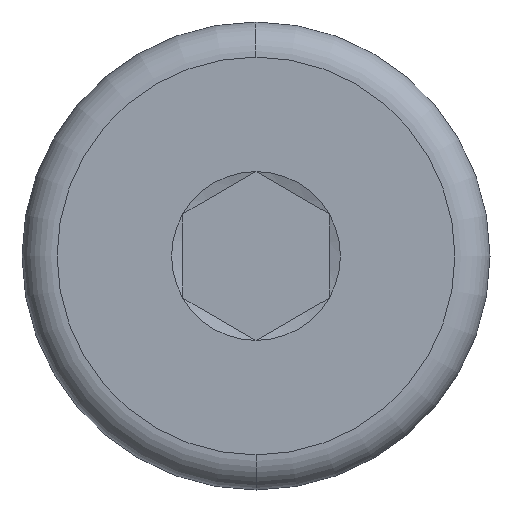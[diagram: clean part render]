
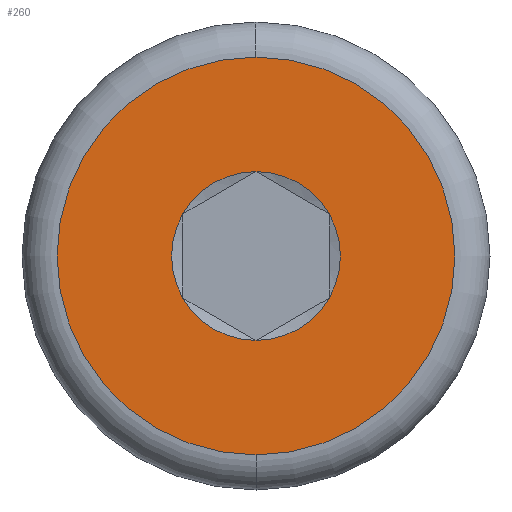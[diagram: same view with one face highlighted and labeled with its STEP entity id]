
A CAD part, left-side view. The second image highlights one B-rep face of the part: STEP entity #260.
In plain terms, the highlighted planar face has unit normal (-1, 0, 0).
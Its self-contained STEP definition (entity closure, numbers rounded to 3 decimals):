
#1 = ORIENTED_EDGE ( 'NONE', *, *, #178, .T. ) ;
#3 = ORIENTED_EDGE ( 'NONE', *, *, #229, .T. ) ;
#16 = AXIS2_PLACEMENT_3D ( 'NONE', #173, #369, #273 ) ;
#43 = CARTESIAN_POINT ( 'NONE',  ( 0., 1.25, 0.722 ) ) ;
#46 = ORIENTED_EDGE ( 'NONE', *, *, #131, .T. ) ;
#54 = EDGE_CURVE ( 'NONE', #394, #650, #516, .T. ) ;
#56 = EDGE_CURVE ( 'NONE', #456, #279, #214, .T. ) ;
#67 = CARTESIAN_POINT ( 'NONE',  ( 0., 0., 0. ) ) ;
#77 = DIRECTION ( 'NONE',  ( -1., 0., 0. ) ) ;
#81 = DIRECTION ( 'NONE',  ( 0., 0., -1. ) ) ;
#87 = DIRECTION ( 'NONE',  ( 1., 0., 0. ) ) ;
#98 = CARTESIAN_POINT ( 'NONE',  ( 0., -1.25, -0.722 ) ) ;
#104 = CIRCLE ( 'NONE', #296, 1.443 ) ;
#115 = AXIS2_PLACEMENT_3D ( 'NONE', #475, #177, #594 ) ;
#124 = CIRCLE ( 'NONE', #503, 1.443 ) ;
#129 = EDGE_LOOP ( 'NONE', ( #188, #671 ) ) ;
#131 = EDGE_CURVE ( 'NONE', #209, #626, #384, .T. ) ;
#157 = ORIENTED_EDGE ( 'NONE', *, *, #242, .T. ) ;
#167 = CARTESIAN_POINT ( 'NONE',  ( 0., 0., 0. ) ) ;
#173 = CARTESIAN_POINT ( 'NONE',  ( 0., 0., 0. ) ) ;
#177 = DIRECTION ( 'NONE',  ( 1., 0., 0. ) ) ;
#178 = EDGE_CURVE ( 'NONE', #676, #209, #243, .T. ) ;
#179 = CARTESIAN_POINT ( 'NONE',  ( 0., 0., 0. ) ) ;
#183 = CARTESIAN_POINT ( 'NONE',  ( 0., -1.25, 0.722 ) ) ;
#188 = ORIENTED_EDGE ( 'NONE', *, *, #534, .F. ) ;
#193 = AXIS2_PLACEMENT_3D ( 'NONE', #588, #216, #270 ) ;
#195 = CARTESIAN_POINT ( 'NONE',  ( 0., 0., 0. ) ) ;
#201 = DIRECTION ( 'NONE',  ( 1., 0., 0. ) ) ;
#209 = VERTEX_POINT ( 'NONE', #183 ) ;
#214 = CIRCLE ( 'NONE', #193, 3.4 ) ;
#216 = DIRECTION ( 'NONE',  ( 1., 0., 0. ) ) ;
#224 = DIRECTION ( 'NONE',  ( 0., 0., -1. ) ) ;
#229 = EDGE_CURVE ( 'NONE', #626, #500, #124, .T. ) ;
#242 = EDGE_CURVE ( 'NONE', #650, #676, #558, .T. ) ;
#243 = CIRCLE ( 'NONE', #315, 1.443 ) ;
#260 = ADVANCED_FACE ( 'NONE', ( #438, #382 ), #649, .T. ) ;
#262 = AXIS2_PLACEMENT_3D ( 'NONE', #595, #330, #291 ) ;
#270 = DIRECTION ( 'NONE',  ( 0., 0., -1. ) ) ;
#273 = DIRECTION ( 'NONE',  ( 0., 0., -1. ) ) ;
#279 = VERTEX_POINT ( 'NONE', #546 ) ;
#280 = CARTESIAN_POINT ( 'NONE',  ( 0., 0., 1.443 ) ) ;
#291 = DIRECTION ( 'NONE',  ( 0., 0., -1. ) ) ;
#296 = AXIS2_PLACEMENT_3D ( 'NONE', #167, #201, #565 ) ;
#313 = CARTESIAN_POINT ( 'NONE',  ( 0., 0., 3.4 ) ) ;
#315 = AXIS2_PLACEMENT_3D ( 'NONE', #540, #87, #327 ) ;
#327 = DIRECTION ( 'NONE',  ( 0., 0., -1. ) ) ;
#330 = DIRECTION ( 'NONE',  ( 1., 0., 0. ) ) ;
#367 = AXIS2_PLACEMENT_3D ( 'NONE', #195, #77, #553 ) ;
#369 = DIRECTION ( 'NONE',  ( 1., 0., 0. ) ) ;
#382 = FACE_OUTER_BOUND ( 'NONE', #129, .T. ) ;
#384 = CIRCLE ( 'NONE', #425, 1.443 ) ;
#394 = VERTEX_POINT ( 'NONE', #627 ) ;
#401 = CIRCLE ( 'NONE', #115, 3.4 ) ;
#417 = EDGE_CURVE ( 'NONE', #500, #394, #104, .T. ) ;
#425 = AXIS2_PLACEMENT_3D ( 'NONE', #67, #533, #224 ) ;
#438 = FACE_BOUND ( 'NONE', #514, .T. ) ;
#445 = DIRECTION ( 'NONE',  ( 1., 0., 0. ) ) ;
#456 = VERTEX_POINT ( 'NONE', #313 ) ;
#475 = CARTESIAN_POINT ( 'NONE',  ( 0., 0., 0. ) ) ;
#479 = ORIENTED_EDGE ( 'NONE', *, *, #54, .T. ) ;
#500 = VERTEX_POINT ( 'NONE', #648 ) ;
#503 = AXIS2_PLACEMENT_3D ( 'NONE', #179, #445, #81 ) ;
#514 = EDGE_LOOP ( 'NONE', ( #157, #1, #46, #3, #566, #479 ) ) ;
#516 = CIRCLE ( 'NONE', #16, 1.443 ) ;
#533 = DIRECTION ( 'NONE',  ( 1., 0., 0. ) ) ;
#534 = EDGE_CURVE ( 'NONE', #279, #456, #401, .T. ) ;
#540 = CARTESIAN_POINT ( 'NONE',  ( 0., 0., 0. ) ) ;
#546 = CARTESIAN_POINT ( 'NONE',  ( 0., 0., -3.4 ) ) ;
#553 = DIRECTION ( 'NONE',  ( 0., 0., 1. ) ) ;
#558 = CIRCLE ( 'NONE', #262, 1.443 ) ;
#565 = DIRECTION ( 'NONE',  ( 0., 0., -1. ) ) ;
#566 = ORIENTED_EDGE ( 'NONE', *, *, #417, .T. ) ;
#588 = CARTESIAN_POINT ( 'NONE',  ( 0., 0., 0. ) ) ;
#594 = DIRECTION ( 'NONE',  ( 0., 0., -1. ) ) ;
#595 = CARTESIAN_POINT ( 'NONE',  ( 0., 0., 0. ) ) ;
#626 = VERTEX_POINT ( 'NONE', #98 ) ;
#627 = CARTESIAN_POINT ( 'NONE',  ( 0., 1.25, -0.722 ) ) ;
#648 = CARTESIAN_POINT ( 'NONE',  ( 0., 0., -1.443 ) ) ;
#649 = PLANE ( 'NONE',  #367 ) ;
#650 = VERTEX_POINT ( 'NONE', #43 ) ;
#671 = ORIENTED_EDGE ( 'NONE', *, *, #56, .F. ) ;
#676 = VERTEX_POINT ( 'NONE', #280 ) ;
